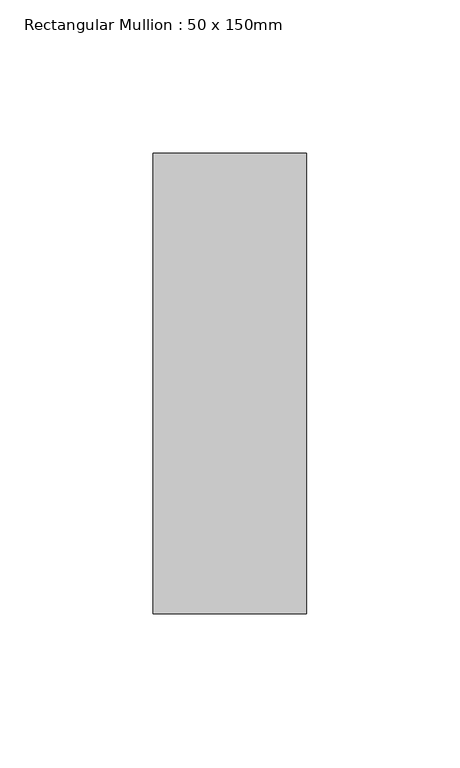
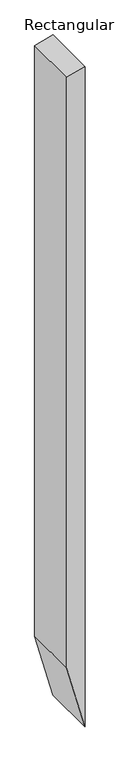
"""IFC4 building model written with IfcOpenShell, lengths in millimetres: member geometry, Rectangular Mullion : 50 x 150mm."""

from ifc_helpers import new_model, si_unit, frame, origin, place, context, project, spatial, polyline, outline, extrude, source, transform, mapped, element, save


def rectangular_mullion_50_x_150mm_25fb4bce(model_context):
    return source(origin(), model_context, "Body", "SweptSolid", [
        extrude(outline(polyline([(0.0, 0.0), (-13.3974596, -50.0), (-1704.9796403, -50.0), (-1891.5821809, 0.0), (0.0, 0.0)])), frame((0.0, -75.0, 0.0), z_axis=(0.0, 1.0, 0.0), x_axis=(0.0, 0.0, 1.0)), (0.0, 0.0, 1.0), 150.0),
    ])


if __name__ == "__main__":
    model = new_model("IFC4")
    model_context = context("Model", 3, world=origin())
    ifc_project = project(units=[si_unit("LENGTHUNIT", "METRE", prefix="MILLI")], contexts=[model_context])
    site = spatial("IfcSite", under=ifc_project)
    building = spatial("IfcBuilding", under=site)
    placement = place(None, origin())
    rectangular_mullion_50_x_150mm_shape = rectangular_mullion_50_x_150mm_25fb4bce(model_context)
    element("IfcMember", 1, ObjectType="Rectangular Mullion : 50 x 150mm", at=placement, inside=building, context=model_context, shape_type="MappedRepresentation", body=[
        mapped(rectangular_mullion_50_x_150mm_shape, transform((0.0, 0.0, 0.0), x_axis=(1.0, 0.0, 0.0), y_axis=(0.0, 1.0, 0.0), z_axis=(0.0, 0.0, 1.0))),
    ])
    save(model, "model.ifc")
